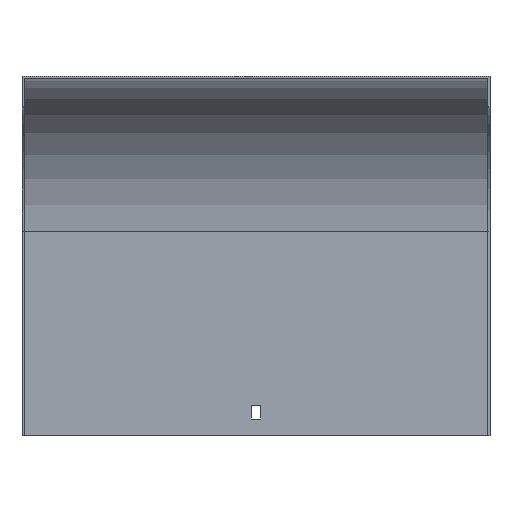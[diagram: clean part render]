
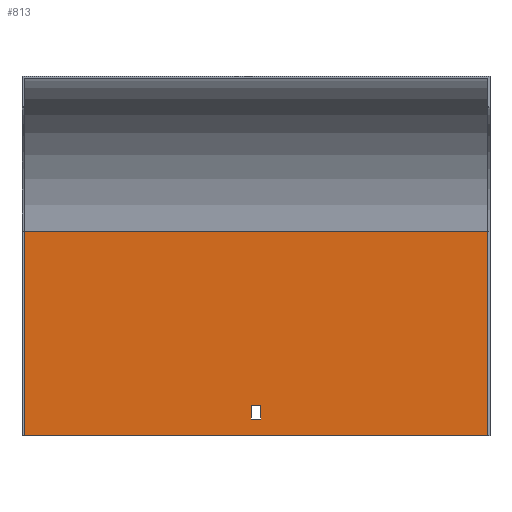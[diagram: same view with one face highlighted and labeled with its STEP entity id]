
A CAD part, top view. The second image highlights one B-rep face of the part: STEP entity #813.
In plain terms, the highlighted planar face has unit normal (0, 0, 1).
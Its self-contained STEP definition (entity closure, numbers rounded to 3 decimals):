
#6 = VERTEX_POINT ( 'NONE', #29 ) ;
#8 = VECTOR ( 'NONE', #309, 1000. ) ;
#29 = CARTESIAN_POINT ( 'NONE',  ( 3.25, -224.5, -234. ) ) ;
#42 = CARTESIAN_POINT ( 'NONE',  ( 153.5, -215.5, -234. ) ) ;
#57 = CARTESIAN_POINT ( 'NONE',  ( -3.25, -101.5, -234. ) ) ;
#58 = CARTESIAN_POINT ( 'NONE',  ( 152., -235.5, -234. ) ) ;
#68 = ORIENTED_EDGE ( 'NONE', *, *, #202, .T. ) ;
#89 = LINE ( 'NONE', #442, #648 ) ;
#116 = LINE ( 'NONE', #57, #165 ) ;
#124 = DIRECTION ( 'NONE',  ( 0., 1., 0. ) ) ;
#125 = DIRECTION ( 'NONE',  ( 1., 0., 0. ) ) ;
#128 = ORIENTED_EDGE ( 'NONE', *, *, #437, .T. ) ;
#162 = CARTESIAN_POINT ( 'NONE',  ( -152., -101.5, -234. ) ) ;
#165 = VECTOR ( 'NONE', #720, 1000. ) ;
#176 = DIRECTION ( 'NONE',  ( -1., 0., 0. ) ) ;
#191 = EDGE_CURVE ( 'NONE', #541, #591, #116, .T. ) ;
#202 = EDGE_CURVE ( 'NONE', #859, #485, #433, .T. ) ;
#220 = LINE ( 'NONE', #491, #295 ) ;
#226 = LINE ( 'NONE', #42, #705 ) ;
#228 = ORIENTED_EDGE ( 'NONE', *, *, #501, .T. ) ;
#229 = EDGE_CURVE ( 'NONE', #485, #524, #375, .T. ) ;
#238 = FACE_BOUND ( 'NONE', #839, .T. ) ;
#261 = ORIENTED_EDGE ( 'NONE', *, *, #191, .T. ) ;
#265 = CARTESIAN_POINT ( 'NONE',  ( -3.25, -215.5, -234. ) ) ;
#266 = EDGE_CURVE ( 'NONE', #739, #6, #537, .T. ) ;
#289 = DIRECTION ( 'NONE',  ( 1., 0., 0. ) ) ;
#295 = VECTOR ( 'NONE', #552, 1000. ) ;
#302 = ORIENTED_EDGE ( 'NONE', *, *, #447, .F. ) ;
#309 = DIRECTION ( 'NONE',  ( -1., 0., 0. ) ) ;
#322 = VERTEX_POINT ( 'NONE', #616 ) ;
#345 = CARTESIAN_POINT ( 'NONE',  ( 3.25, -101.5, -234. ) ) ;
#356 = EDGE_CURVE ( 'NONE', #322, #524, #220, .T. ) ;
#366 = AXIS2_PLACEMENT_3D ( 'NONE', #441, #386, #125 ) ;
#370 = ORIENTED_EDGE ( 'NONE', *, *, #229, .T. ) ;
#375 = LINE ( 'NONE', #575, #835 ) ;
#378 = VECTOR ( 'NONE', #124, 1000. ) ;
#386 = DIRECTION ( 'NONE',  ( 0., 0., 1. ) ) ;
#433 = LINE ( 'NONE', #445, #378 ) ;
#437 = EDGE_CURVE ( 'NONE', #591, #739, #226, .T. ) ;
#441 = CARTESIAN_POINT ( 'NONE',  ( 153.5, -101.5, -234. ) ) ;
#442 = CARTESIAN_POINT ( 'NONE',  ( 153.5, -235.5, -234. ) ) ;
#445 = CARTESIAN_POINT ( 'NONE',  ( 152., -101.5, -234. ) ) ;
#447 = EDGE_CURVE ( 'NONE', #859, #322, #89, .T. ) ;
#485 = VERTEX_POINT ( 'NONE', #841 ) ;
#491 = CARTESIAN_POINT ( 'NONE',  ( -152., -101.5, -234. ) ) ;
#501 = EDGE_CURVE ( 'NONE', #6, #541, #637, .T. ) ;
#507 = PLANE ( 'NONE',  #366 ) ;
#524 = VERTEX_POINT ( 'NONE', #162 ) ;
#531 = VECTOR ( 'NONE', #862, 1000. ) ;
#537 = LINE ( 'NONE', #345, #531 ) ;
#541 = VERTEX_POINT ( 'NONE', #633 ) ;
#552 = DIRECTION ( 'NONE',  ( 0., 1., 0. ) ) ;
#572 = CARTESIAN_POINT ( 'NONE',  ( 3.25, -215.5, -234. ) ) ;
#575 = CARTESIAN_POINT ( 'NONE',  ( 153.5, -101.5, -234. ) ) ;
#591 = VERTEX_POINT ( 'NONE', #265 ) ;
#616 = CARTESIAN_POINT ( 'NONE',  ( -152., -235.5, -234. ) ) ;
#633 = CARTESIAN_POINT ( 'NONE',  ( -3.25, -224.5, -234. ) ) ;
#637 = LINE ( 'NONE', #831, #8 ) ;
#647 = ORIENTED_EDGE ( 'NONE', *, *, #356, .F. ) ;
#648 = VECTOR ( 'NONE', #778, 1000. ) ;
#705 = VECTOR ( 'NONE', #289, 1000. ) ;
#720 = DIRECTION ( 'NONE',  ( 0., 1., 0. ) ) ;
#739 = VERTEX_POINT ( 'NONE', #572 ) ;
#762 = ORIENTED_EDGE ( 'NONE', *, *, #266, .T. ) ;
#778 = DIRECTION ( 'NONE',  ( -1., 0., 0. ) ) ;
#790 = EDGE_LOOP ( 'NONE', ( #647, #302, #68, #370 ) ) ;
#813 = ADVANCED_FACE ( 'NONE', ( #840, #238 ), #507, .T. ) ;
#831 = CARTESIAN_POINT ( 'NONE',  ( 153.5, -224.5, -234. ) ) ;
#835 = VECTOR ( 'NONE', #176, 1000. ) ;
#839 = EDGE_LOOP ( 'NONE', ( #228, #261, #128, #762 ) ) ;
#840 = FACE_OUTER_BOUND ( 'NONE', #790, .T. ) ;
#841 = CARTESIAN_POINT ( 'NONE',  ( 152., -101.5, -234. ) ) ;
#859 = VERTEX_POINT ( 'NONE', #58 ) ;
#862 = DIRECTION ( 'NONE',  ( 0., -1., 0. ) ) ;
